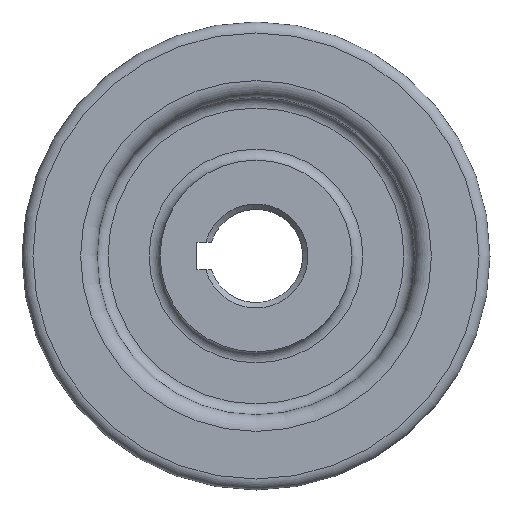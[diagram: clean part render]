
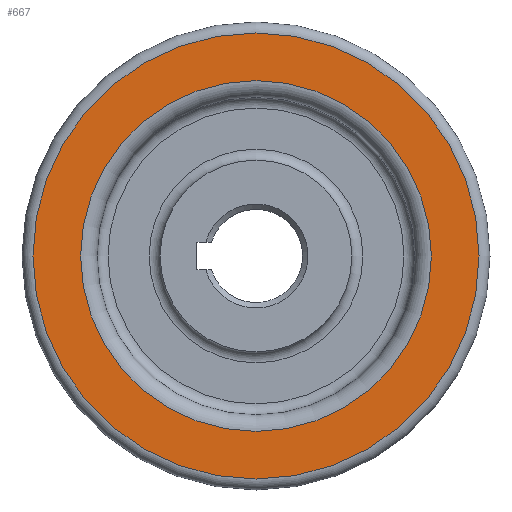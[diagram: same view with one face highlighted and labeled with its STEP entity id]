
A CAD part, left-side view. The second image highlights one B-rep face of the part: STEP entity #667.
In plain terms, the highlighted planar face has unit normal (-1, 0, 0).
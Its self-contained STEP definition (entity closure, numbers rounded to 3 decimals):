
#38=FACE_BOUND('',#139,.T.);
#85=PLANE('',#746);
#102=FACE_OUTER_BOUND('',#138,.T.);
#138=EDGE_LOOP('',(#515,#516));
#139=EDGE_LOOP('',(#517,#518));
#183=CIRCLE('',#743,32.);
#184=CIRCLE('',#744,32.);
#186=CIRCLE('',#747,40.7);
#187=CIRCLE('',#748,40.7);
#277=VERTEX_POINT('',#1169);
#278=VERTEX_POINT('',#1170);
#279=VERTEX_POINT('',#1175);
#280=VERTEX_POINT('',#1176);
#367=EDGE_CURVE('',#277,#278,#183,.T.);
#368=EDGE_CURVE('',#278,#277,#184,.T.);
#370=EDGE_CURVE('',#279,#280,#186,.T.);
#371=EDGE_CURVE('',#280,#279,#187,.T.);
#515=ORIENTED_EDGE('',*,*,#370,.F.);
#516=ORIENTED_EDGE('',*,*,#371,.F.);
#517=ORIENTED_EDGE('',*,*,#367,.T.);
#518=ORIENTED_EDGE('',*,*,#368,.T.);
#667=ADVANCED_FACE('',(#102,#38),#85,.T.);
#743=AXIS2_PLACEMENT_3D('',#1171,#911,#912);
#744=AXIS2_PLACEMENT_3D('',#1172,#913,#914);
#746=AXIS2_PLACEMENT_3D('',#1174,#917,#918);
#747=AXIS2_PLACEMENT_3D('',#1177,#919,#920);
#748=AXIS2_PLACEMENT_3D('',#1178,#921,#922);
#911=DIRECTION('center_axis',(1.,0.,0.));
#912=DIRECTION('ref_axis',(0.,0.,-1.));
#913=DIRECTION('center_axis',(1.,0.,0.));
#914=DIRECTION('ref_axis',(0.,0.,-1.));
#917=DIRECTION('center_axis',(-1.,0.,0.));
#918=DIRECTION('ref_axis',(0.,0.,1.));
#919=DIRECTION('center_axis',(1.,0.,0.));
#920=DIRECTION('ref_axis',(0.,0.,-1.));
#921=DIRECTION('center_axis',(1.,0.,0.));
#922=DIRECTION('ref_axis',(0.,0.,-1.));
#1169=CARTESIAN_POINT('',(-19.,32.,0.));
#1170=CARTESIAN_POINT('',(-19.,0.,32.));
#1171=CARTESIAN_POINT('Origin',(-19.,0.,
0.));
#1172=CARTESIAN_POINT('Origin',(-19.,0.,
0.));
#1174=CARTESIAN_POINT('Origin',(-19.,40.7,0.));
#1175=CARTESIAN_POINT('',(-19.,40.7,0.));
#1176=CARTESIAN_POINT('',(-19.,0.,40.7));
#1177=CARTESIAN_POINT('Origin',(-19.,0.,
0.));
#1178=CARTESIAN_POINT('Origin',(-19.,0.,
0.));
